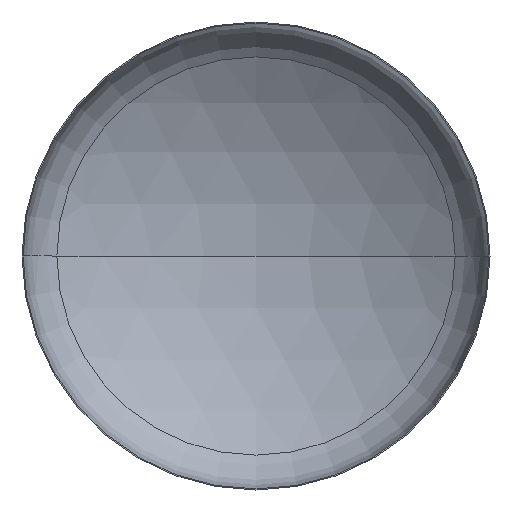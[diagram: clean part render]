
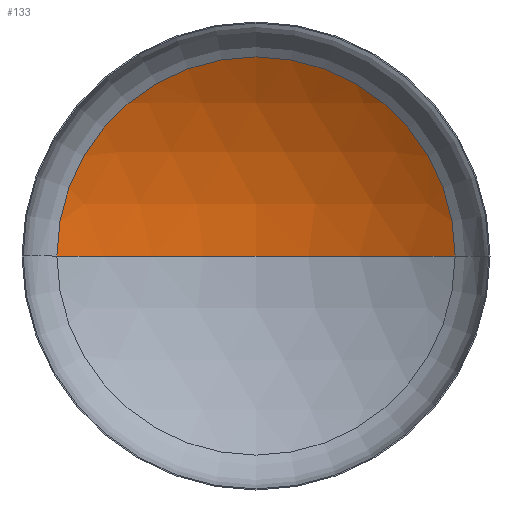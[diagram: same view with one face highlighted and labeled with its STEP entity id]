
A CAD part, front view. The second image highlights one B-rep face of the part: STEP entity #133.
In plain terms, the highlighted spherical face has radius 3600 mm.
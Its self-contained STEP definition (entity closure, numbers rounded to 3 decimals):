
#2 = ORIENTED_EDGE ( 'NONE', *, *, #193, .T. ) ;
#8 = VERTEX_POINT ( 'NONE', #230 ) ;
#15 = VERTEX_POINT ( 'NONE', #107 ) ;
#59 = ORIENTED_EDGE ( 'NONE', *, *, #227, .T. ) ;
#61 = VERTEX_POINT ( 'NONE', #196 ) ;
#70 = EDGE_LOOP ( 'NONE', ( #93, #59, #2 ) ) ;
#88 = CARTESIAN_POINT ( 'NONE',  ( 0., -2430.081, 0. ) ) ;
#93 = ORIENTED_EDGE ( 'NONE', *, *, #151, .F. ) ;
#99 = DIRECTION ( 'NONE',  ( 1., 0., 0. ) ) ;
#107 = CARTESIAN_POINT ( 'NONE',  ( -1914.63, 618.556, 0. ) ) ;
#117 = DIRECTION ( 'NONE',  ( 0., 0., -1. ) ) ;
#129 = AXIS2_PLACEMENT_3D ( 'NONE', #313, #161, #341 ) ;
#133 = ADVANCED_FACE ( 'NONE', ( #400 ), #327, .F. ) ;
#151 = EDGE_CURVE ( 'NONE', #61, #15, #191, .T. ) ;
#161 = DIRECTION ( 'NONE',  ( 0., -1., 0. ) ) ;
#177 = CIRCLE ( 'NONE', #129, 1914.63 ) ;
#184 = AXIS2_PLACEMENT_3D ( 'NONE', #338, #185, #288 ) ;
#185 = DIRECTION ( 'NONE',  ( 0., 0., -1. ) ) ;
#191 = CIRCLE ( 'NONE', #383, 3600. ) ;
#193 = EDGE_CURVE ( 'NONE', #8, #15, #177, .T. ) ;
#196 = CARTESIAN_POINT ( 'NONE',  ( 0., 1169.919, 0. ) ) ;
#227 = EDGE_CURVE ( 'NONE', #61, #8, #376, .T. ) ;
#230 = CARTESIAN_POINT ( 'NONE',  ( 1914.63, 618.556, 0. ) ) ;
#238 = CARTESIAN_POINT ( 'NONE',  ( 0., -2430.081, 0. ) ) ;
#276 = DIRECTION ( 'NONE',  ( 0., 0., 1. ) ) ;
#288 = DIRECTION ( 'NONE',  ( -1., 0., 0. ) ) ;
#313 = CARTESIAN_POINT ( 'NONE',  ( 0., 618.556, 0. ) ) ;
#327 = SPHERICAL_SURFACE ( 'NONE', #365, 3600. ) ;
#338 = CARTESIAN_POINT ( 'NONE',  ( 0., -2430.081, 0. ) ) ;
#341 = DIRECTION ( 'NONE',  ( 1., 0., 0. ) ) ;
#365 = AXIS2_PLACEMENT_3D ( 'NONE', #238, #117, #408 ) ;
#376 = CIRCLE ( 'NONE', #184, 3600. ) ;
#383 = AXIS2_PLACEMENT_3D ( 'NONE', #88, #276, #99 ) ;
#400 = FACE_OUTER_BOUND ( 'NONE', #70, .T. ) ;
#408 = DIRECTION ( 'NONE',  ( -1., 0., 0. ) ) ;
